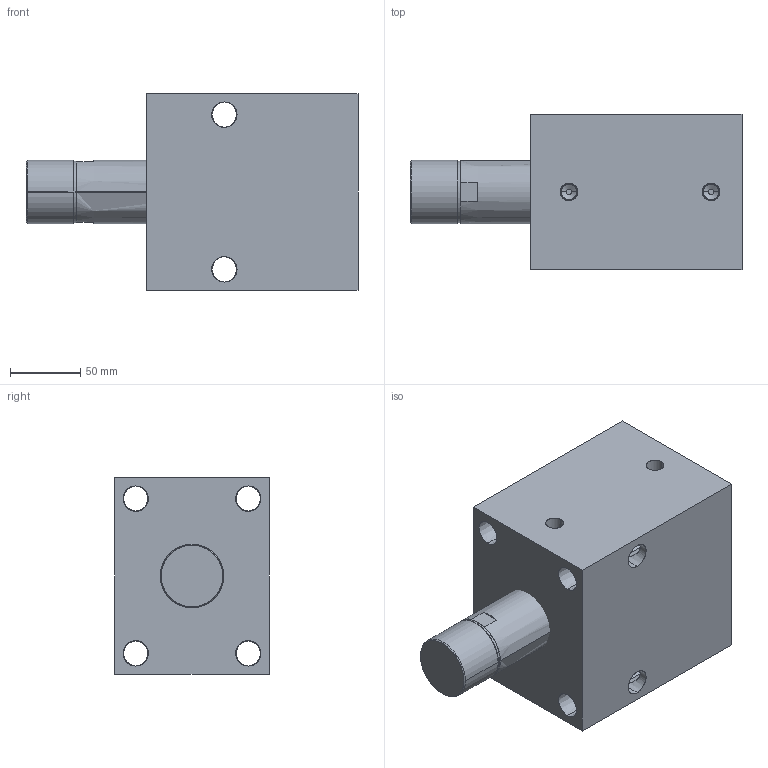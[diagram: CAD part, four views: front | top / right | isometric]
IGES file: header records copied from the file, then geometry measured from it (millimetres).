
Start section: SolidWorks IGES file using analytic representation for surfaces
Global section: file name: C:\Documents and Settings\rajib\Desktop\Rajib\BLOCK CYLINDER HYDRAULIC\0701-0704\IGS 0701-0708\0703.IGS; native system: SolidWorks 2007; preprocessor: SolidWorks 2007; author: rajib; date: 110121.160846; units: millimetre
Bounding box: 236 x 110 x 140 mm (x, y, z)
Surface area: 170501.6 mm2 (no closed solid volume)
Topology: 0 solids, 0 shells, 76 faces, 1856 edges, 1856 vertices
Faces by surface type: revolution 54, bspline 22
